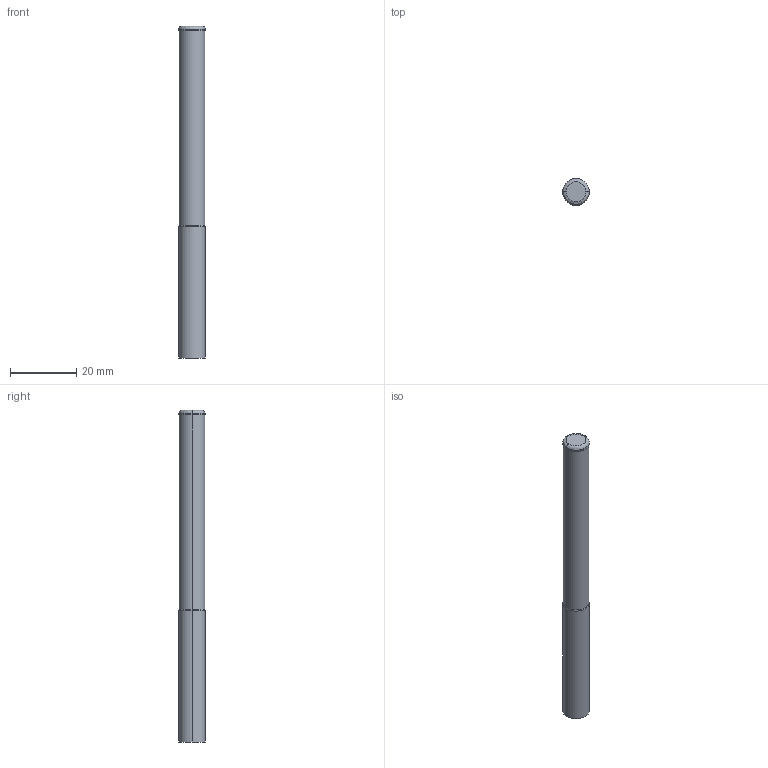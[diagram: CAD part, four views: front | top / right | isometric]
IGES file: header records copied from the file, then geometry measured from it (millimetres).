
Start section: 3D InterOp IGES (v. 2020 1.0.1), Spatial Corp. Copyright (c) 1999-2017.
Global section: file name: WZF279967_8_60_1.igs; native system: Spatial Corp.; preprocessor: 3D InterOp GENERIC/IGES 3.0; author: Noname; organization: Noname; date: 20201007.094531; units: metre
Bounding box: 8 x 8 x 100 mm (x, y, z)
Surface area: 2568.5 mm2 (no closed solid volume)
Topology: 0 solids, 0 shells, 13 faces, 48 edges, 48 vertices
Faces by surface type: revolution 10, extrusion 3
